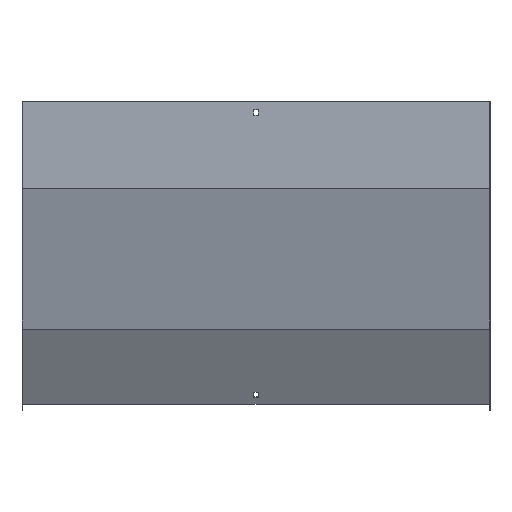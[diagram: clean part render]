
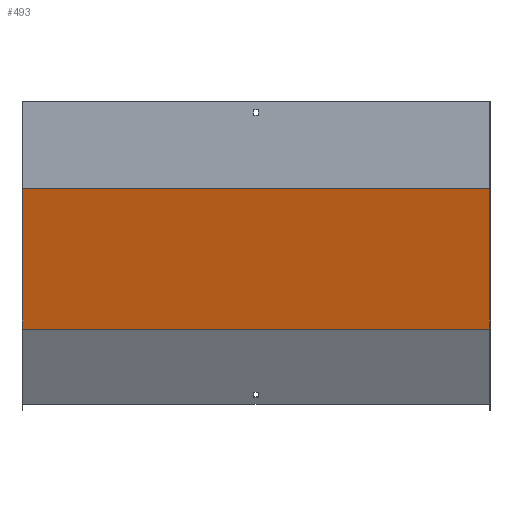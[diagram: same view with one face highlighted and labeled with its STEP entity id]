
A CAD part, front view. The second image highlights one B-rep face of the part: STEP entity #493.
In plain terms, the highlighted planar face has unit normal (0, -0.966, -0.259).
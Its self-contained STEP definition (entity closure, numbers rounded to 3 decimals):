
#79 = EDGE_CURVE ( 'NONE', #781, #550, #283, .T. ) ;
#109 = CARTESIAN_POINT ( 'NONE',  ( 350., -1.5, -130.197 ) ) ;
#117 = AXIS2_PLACEMENT_3D ( 'NONE', #572, #728, #222 ) ;
#130 = VECTOR ( 'NONE', #404, 1000. ) ;
#146 = VERTEX_POINT ( 'NONE', #109 ) ;
#148 = DIRECTION ( 'NONE',  ( 0., 0.259, -0.966 ) ) ;
#155 = CARTESIAN_POINT ( 'NONE',  ( 350., 55.284, -342.117 ) ) ;
#162 = CARTESIAN_POINT ( 'NONE',  ( -350., 55.284, -342.117 ) ) ;
#175 = ORIENTED_EDGE ( 'NONE', *, *, #281, .F. ) ;
#198 = VECTOR ( 'NONE', #452, 1000. ) ;
#219 = CARTESIAN_POINT ( 'NONE',  ( 351.5, 55.284, -342.117 ) ) ;
#220 = EDGE_CURVE ( 'NONE', #146, #548, #266, .T. ) ;
#222 = DIRECTION ( 'NONE',  ( 0., -0.259, 0.966 ) ) ;
#232 = EDGE_LOOP ( 'NONE', ( #657, #686, #175, #252 ) ) ;
#252 = ORIENTED_EDGE ( 'NONE', *, *, #220, .T. ) ;
#266 = LINE ( 'NONE', #335, #130 ) ;
#281 = EDGE_CURVE ( 'NONE', #146, #781, #430, .T. ) ;
#283 = LINE ( 'NONE', #219, #752 ) ;
#307 = CARTESIAN_POINT ( 'NONE',  ( -350., -33.949, -9.097 ) ) ;
#335 = CARTESIAN_POINT ( 'NONE',  ( 351.5, -1.5, -130.197 ) ) ;
#404 = DIRECTION ( 'NONE',  ( -1., 0., 0. ) ) ;
#430 = LINE ( 'NONE', #713, #486 ) ;
#452 = DIRECTION ( 'NONE',  ( 0., 0.259, -0.966 ) ) ;
#486 = VECTOR ( 'NONE', #148, 1000. ) ;
#493 = ADVANCED_FACE ( 'NONE', ( #521 ), #848, .F. ) ;
#500 = CARTESIAN_POINT ( 'NONE',  ( -350., -1.5, -130.197 ) ) ;
#506 = EDGE_CURVE ( 'NONE', #548, #550, #843, .T. ) ;
#521 = FACE_OUTER_BOUND ( 'NONE', #232, .T. ) ;
#548 = VERTEX_POINT ( 'NONE', #500 ) ;
#550 = VERTEX_POINT ( 'NONE', #162 ) ;
#572 = CARTESIAN_POINT ( 'NONE',  ( 351.5, -1.449, -130.388 ) ) ;
#657 = ORIENTED_EDGE ( 'NONE', *, *, #506, .T. ) ;
#686 = ORIENTED_EDGE ( 'NONE', *, *, #79, .F. ) ;
#713 = CARTESIAN_POINT ( 'NONE',  ( 350., -33.949, -9.097 ) ) ;
#728 = DIRECTION ( 'NONE',  ( 0., 0.966, 0.259 ) ) ;
#752 = VECTOR ( 'NONE', #787, 1000. ) ;
#781 = VERTEX_POINT ( 'NONE', #155 ) ;
#787 = DIRECTION ( 'NONE',  ( -1., 0., 0. ) ) ;
#843 = LINE ( 'NONE', #307, #198 ) ;
#848 = PLANE ( 'NONE',  #117 ) ;
